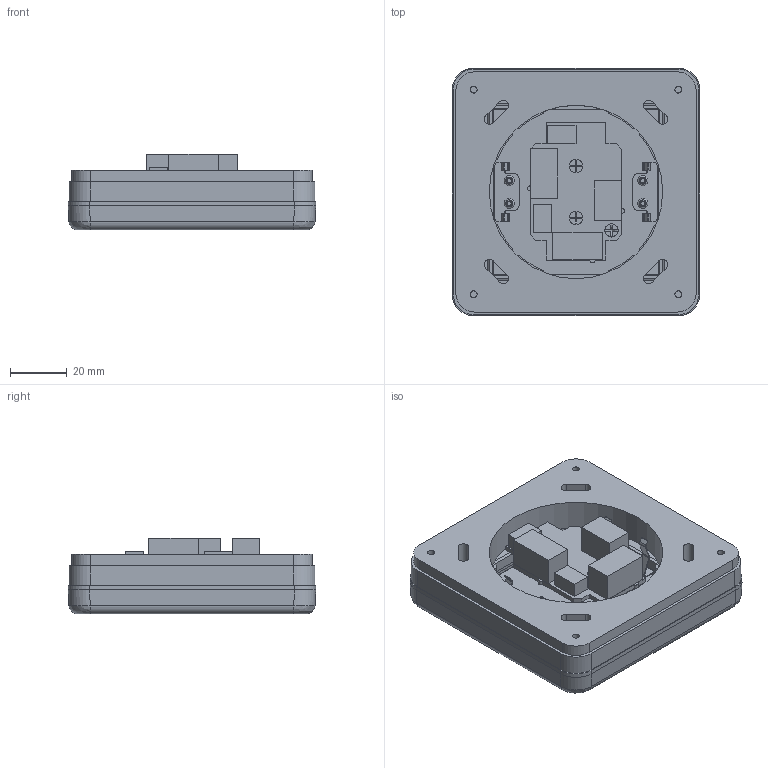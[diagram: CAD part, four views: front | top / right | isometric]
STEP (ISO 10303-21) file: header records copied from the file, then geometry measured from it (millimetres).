
FILE_DESCRIPTION(/* description */ ('','CAx-IF Rec.Pracs.---Representation and Presentation of Product Manufacturing Information (PMI)---4.0---2014-10-13'),/* implementation_level */ '2;1');
FILE_NAME(/* name */ 'R53196-2.stp',/* time_stamp */ '2024-08-20T11:11:57+02:00',/* author */ ('leo.zschokke'),/* organization */ (''),/* preprocessor_version */ 'ST-DEVELOPER v19.2',/* originating_system */ 'Autodesk Inventor 2023',/* authorisation */ '');
FILE_SCHEMA (('AP242_MANAGED_MODEL_BASED_3D_ENGINEERING_MIM_LF { 1 0 10303 442 1 1 4 }'));
Length unit declared in the file: millimetre
Products named in the file (1): R53196-2_Vereinfachen_1
Bounding box: 87 x 87 x 26.71 mm (x, y, z)
Volume: 74482.4 mm3; surface area: 56247 mm2
Topology: 19 solids, 27 shells, 783 faces, 2058 edges, 1337 vertices
Faces by surface type: plane 385, cylinder 219, cone 72, torus 59, bspline 40, sphere 8
Full cylindrical faces by diameter (mm): 1.5 x4, 2 x4, 2.2 x4, 2.459 x4, 2.5 x6, 2.6 x7, 3 x12, 3.2 x8, 3.5 x4, 4.7 x3, 6 x4, 61 x1
Entity records: 26574 total; most frequent: CARTESIAN_POINT 6036, DIRECTION 4186, ORIENTED_EDGE 3994, EDGE_CURVE 2042, AXIS2_PLACEMENT_3D 1476, VERTEX_POINT 1337, LINE 1234, VECTOR 1234
